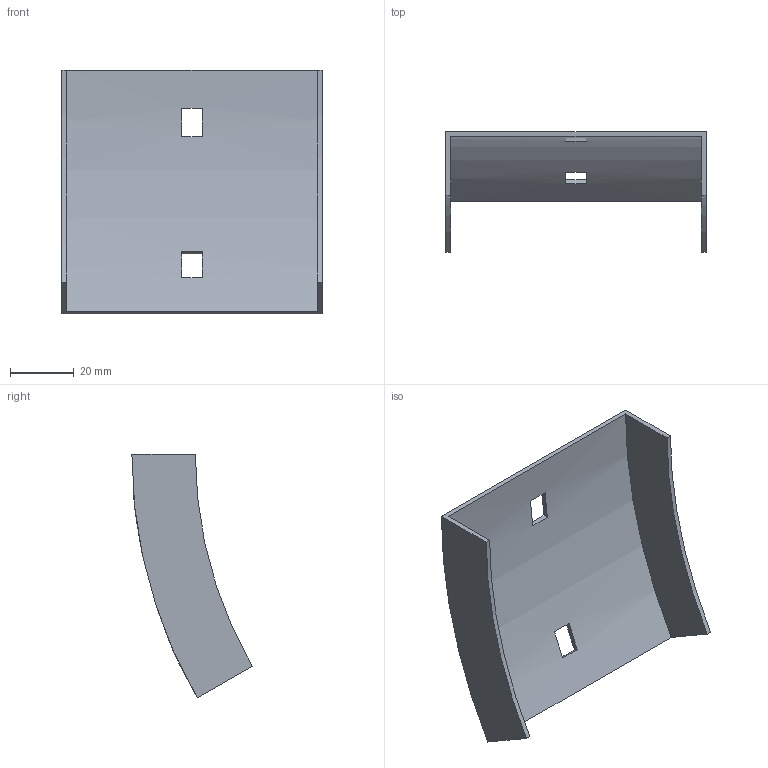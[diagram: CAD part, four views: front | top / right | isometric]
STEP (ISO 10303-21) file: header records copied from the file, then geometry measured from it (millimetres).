
FILE_DESCRIPTION (( 'STEP AP214' ), '1' );
FILE_NAME ('35N1B075.step', '2025-02-21T09:11:47', ( '' ), ( '' ), 'SwSTEP 2.0', 'SolidWorks 2023', '' );
FILE_SCHEMA (( 'AUTOMOTIVE_DESIGN' ));
Length unit declared in the file: millimetre
Products named in the file (1): 35N1B075
Bounding box: 82 x 37.89 x 76.75 mm (x, y, z)
Volume: 13809.2 mm3; surface area: 19073.7 mm2
Topology: 1 solids, 1 shells, 18 faces, 48 edges, 32 vertices
Faces by surface type: plane 14, cylinder 4
Entity records: 599 total; most frequent: DIRECTION 102, CARTESIAN_POINT 99, ORIENTED_EDGE 96, EDGE_CURVE 48, AXIS2_PLACEMENT_3D 35, LINE 32, VECTOR 32, VERTEX_POINT 32
